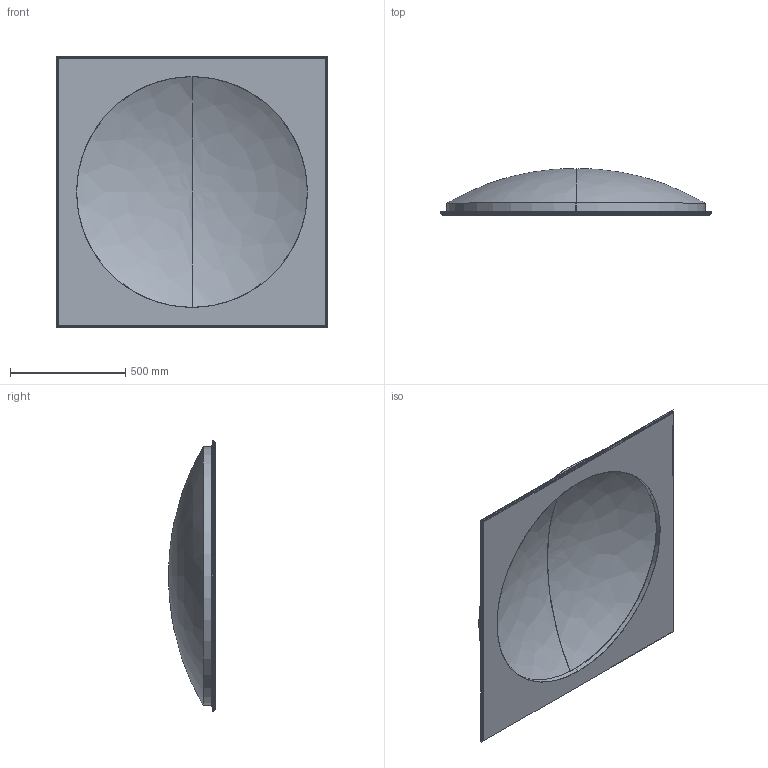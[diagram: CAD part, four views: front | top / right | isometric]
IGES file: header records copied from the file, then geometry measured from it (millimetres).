
Start section: SolidWorks IGES file using analytic representation for surfaces
Global section: file name: \\USINE\Dimitri\Photométrie\Courbes photométriques\Simulation\794 Coupole 100\Coupole 794.IGS; native system: SolidWorks 2015; preprocessor: SolidWorks 2015; author: Dimitri; date: 150213.162658; units: millimetre
Bounding box: 1175 x 202.06 x 1175 mm (x, y, z)
Surface area: 3819671 mm2 (no closed solid volume)
Topology: 0 solids, 0 shells, 36 faces, 776 edges, 772 vertices
Faces by surface type: bspline 24, revolution 12
